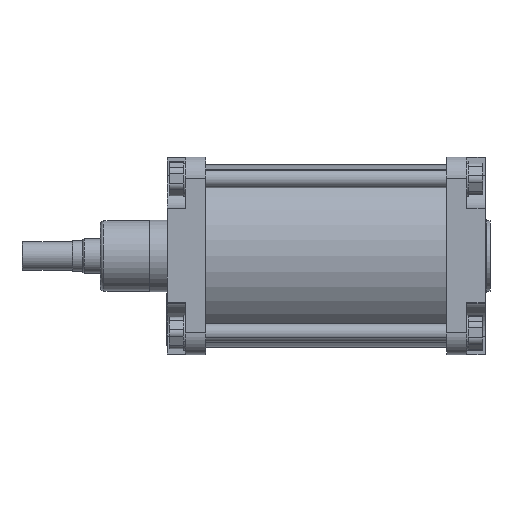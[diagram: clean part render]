
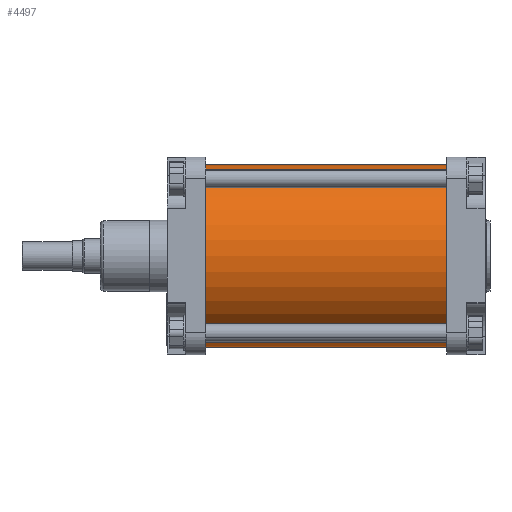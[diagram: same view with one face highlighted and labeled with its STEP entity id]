
A CAD part, top view. The second image highlights one B-rep face of the part: STEP entity #4497.
In plain terms, the highlighted cylindrical face has radius 130 mm (diameter 260 mm), a partial arc.
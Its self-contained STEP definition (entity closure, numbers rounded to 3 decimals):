
#2427=CARTESIAN_POINT('Vertex',(-50.,-130.,0.)) ;
#2429=CARTESIAN_POINT('Vertex',(-50.,130.,0.)) ;
#2432=CARTESIAN_POINT('Axis2P3D Location',(-50.,0.,0.)) ;
#4467=CARTESIAN_POINT('Axis2P3D Location',(122.,0.,0.)) ;
#4472=CARTESIAN_POINT('Line Origine',(122.,130.,0.)) ;
#4476=CARTESIAN_POINT('Vertex',(294.,130.,0.)) ;
#4479=CARTESIAN_POINT('Line Origine',(122.,-130.,0.)) ;
#4483=CARTESIAN_POINT('Vertex',(294.,-130.,0.)) ;
#4486=CARTESIAN_POINT('Axis2P3D Location',(294.,0.,0.)) ;
#2433=DIRECTION('Axis2P3D Direction',(-1.,0.,0.)) ;
#4468=DIRECTION('Axis2P3D Direction',(1.,-0.,0.)) ;
#4469=DIRECTION('Axis2P3D XDirection',(0.,1.,0.)) ;
#4473=DIRECTION('Vector Direction',(1.,0.,0.)) ;
#4480=DIRECTION('Vector Direction',(1.,0.,0.)) ;
#4487=DIRECTION('Axis2P3D Direction',(1.,-0.,0.)) ;
#2434=AXIS2_PLACEMENT_3D('Circle Axis2P3D',#2432,#2433,$) ;
#4470=AXIS2_PLACEMENT_3D('Cylinder Axis2P3D',#4467,#4468,#4469) ;
#4488=AXIS2_PLACEMENT_3D('Circle Axis2P3D',#4486,#4487,$) ;
#4492=ORIENTED_EDGE('',*,*,#4478,.F.) ;
#4493=ORIENTED_EDGE('',*,*,#2436,.T.) ;
#4494=ORIENTED_EDGE('',*,*,#4485,.T.) ;
#4495=ORIENTED_EDGE('',*,*,#4490,.F.) ;
#4474=VECTOR('Line Direction',#4473,1.) ;
#4481=VECTOR('Line Direction',#4480,1.) ;
#4497=ADVANCED_FACE('PartBody',(#4496),#4471,.T.) ;
#2435=CIRCLE('generated circle',#2434,130.) ;
#4489=CIRCLE('generated circle',#4488,130.) ;
#4471=CYLINDRICAL_SURFACE('generated cylinder',#4470,130.) ;
#2436=EDGE_CURVE('',#2430,#2428,#2435,.F.) ;
#4478=EDGE_CURVE('',#2430,#4477,#4475,.T.) ;
#4485=EDGE_CURVE('',#2428,#4484,#4482,.T.) ;
#4490=EDGE_CURVE('',#4477,#4484,#4489,.T.) ;
#4491=EDGE_LOOP('',(#4492,#4493,#4494,#4495)) ;
#4496=FACE_OUTER_BOUND('',#4491,.T.) ;
#4475=LINE('Line',#4472,#4474) ;
#4482=LINE('Line',#4479,#4481) ;
#2428=VERTEX_POINT('',#2427) ;
#2430=VERTEX_POINT('',#2429) ;
#4477=VERTEX_POINT('',#4476) ;
#4484=VERTEX_POINT('',#4483) ;
